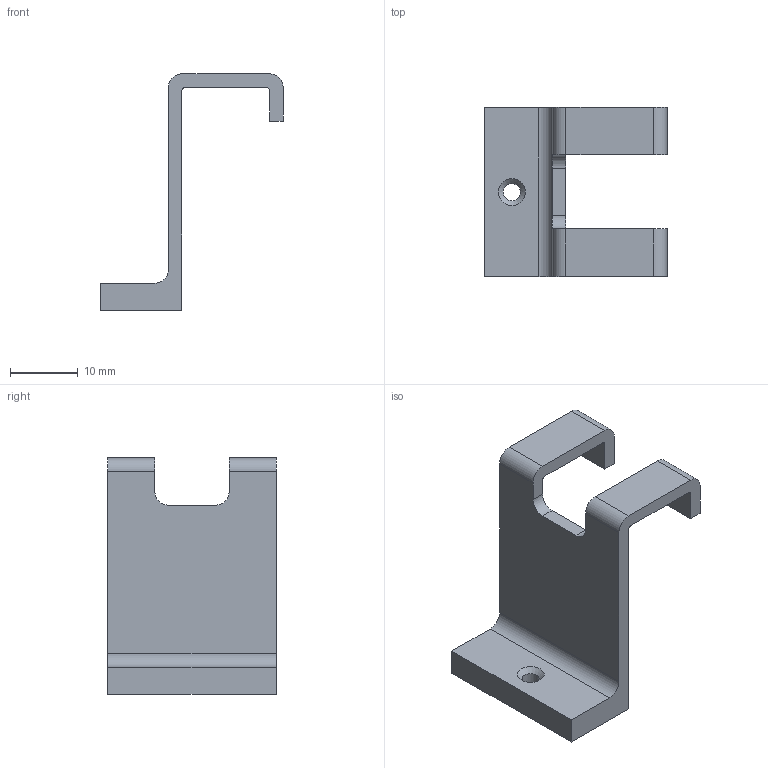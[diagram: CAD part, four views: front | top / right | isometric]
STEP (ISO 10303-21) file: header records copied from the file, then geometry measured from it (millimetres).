
FILE_DESCRIPTION(/* description */ (''),/* implementation_level */ '2;1');
FILE_NAME(/* name */ 'SD Card Mount.step',/* time_stamp */ '2024-02-05T17:42:38+01:00',/* author */ (''),/* organization */ (''),/* preprocessor_version */ 'ST-DEVELOPER v20',/* originating_system */ 'Autodesk Translation Framework v12.14.0.127',/* authorisation */ '');
FILE_SCHEMA (('AUTOMOTIVE_DESIGN { 1 0 10303 214 3 1 1 }'));
Length unit declared in the file: millimetre
Products named in the file (1): SD Card Mount
Bounding box: 27 x 25 x 35 mm (x, y, z)
Volume: 3135.7 mm3; surface area: 3126.8 mm2
Topology: 1 solids, 1 shells, 33 faces, 92 edges, 61 vertices
Faces by surface type: plane 20, cylinder 12, cone 1
Full cylindrical faces by diameter (mm): 2.529 x1
Entity records: 1100 total; most frequent: CARTESIAN_POINT 187, DIRECTION 185, ORIENTED_EDGE 184, EDGE_CURVE 92, LINE 67, VECTOR 67, VERTEX_POINT 61, AXIS2_PLACEMENT_3D 59
